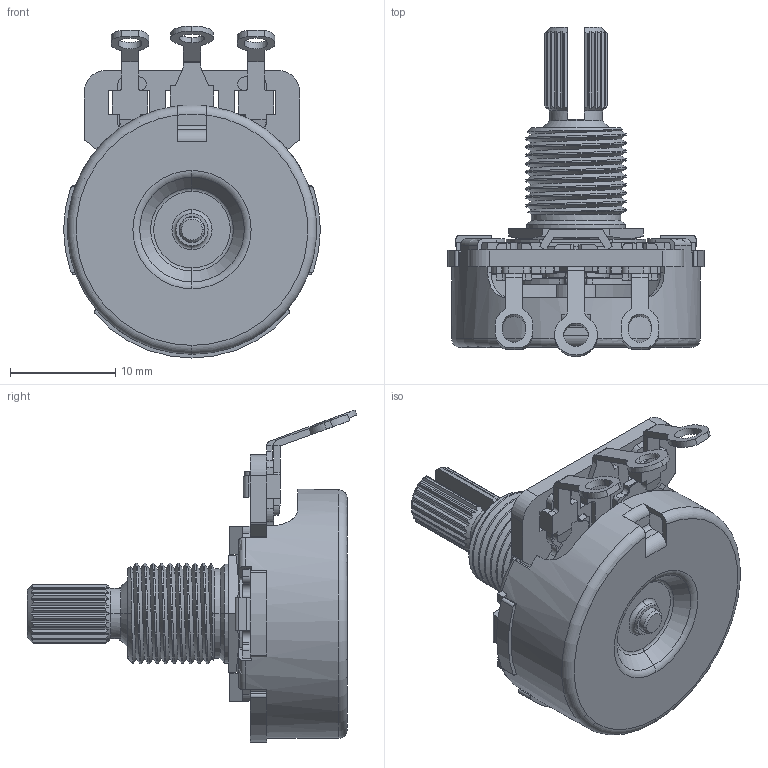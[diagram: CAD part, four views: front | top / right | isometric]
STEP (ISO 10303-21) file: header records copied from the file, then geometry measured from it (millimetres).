
FILE_DESCRIPTION (( 'STEP AP214' ), '1' );
FILE_NAME ('450GT36K504B2L.STEP', '2019-05-27T01:35:39', ( '' ), ( '' ), 'SwSTEP 2.0', 'SolidWorks 2019', '' );
FILE_SCHEMA (( 'AUTOMOTIVE_DESIGN' ));
Length unit declared in the file: millimetre
Products named in the file (10): 450F-23 for T450AEDF; 450GT36K504B2L; 450 element; 2-450B-6; 45Q_18(for 450GT36K504B2L stamping); 450S-DL-11487-24; 45C-2Z-no lug; 450A-104G; 450D-17 for T450AEDF; T450AEDF(For 104G)
Assembly tree (10 placements, depth 3):
  450GT36K504B2L
    45Q_18(for 450GT36K504B2L stamping)
    T450AEDF(For 104G)
      450A-104G
      450D-17 for T450AEDF
      450 element
      450F-23 for T450AEDF  x2
    45C-2Z-no lug
    2-450B-6
    450S-DL-11487-24
Bounding box: 24.33 x 31.26 x 31.47 mm (x, y, z)
Volume: 2676.3 mm3; surface area: 6768.4 mm2
Topology: 9 solids, 9 shells, 782 faces, 2177 edges, 1419 vertices
Faces by surface type: plane 451, cylinder 267, cone 32, torus 30, bspline 2
Entity records: 25049 total; most frequent: CARTESIAN_POINT 6218, ORIENTED_EDGE 3988, DIRECTION 3761, EDGE_CURVE 1994, VERTEX_POINT 1302, AXIS2_PLACEMENT_3D 1298, VECTOR 1165, LINE 1165
